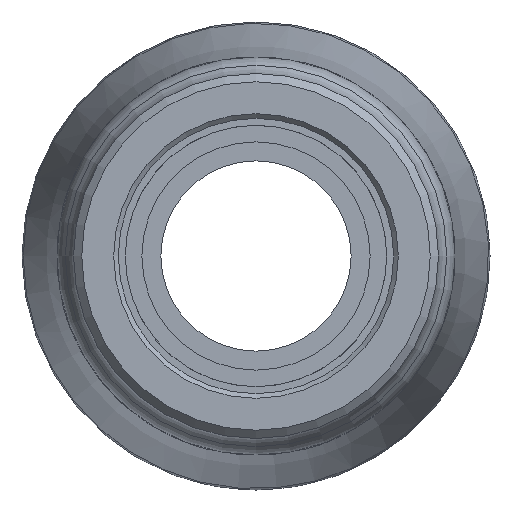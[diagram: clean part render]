
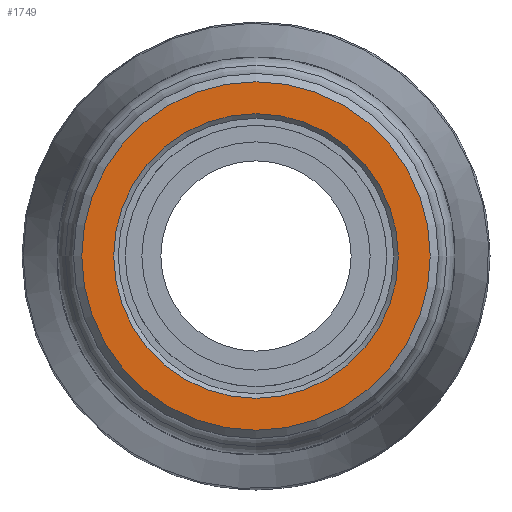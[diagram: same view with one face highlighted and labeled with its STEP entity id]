
A CAD part, left-side view. The second image highlights one B-rep face of the part: STEP entity #1749.
In plain terms, the highlighted planar face has unit normal (-1, 0, 0).
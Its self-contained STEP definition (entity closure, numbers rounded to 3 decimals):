
#193=PLANE('',#1913);
#254=FACE_BOUND('',#413,.T.);
#296=FACE_OUTER_BOUND('',#412,.T.);
#412=EDGE_LOOP('',(#1241));
#413=EDGE_LOOP('',(#1242));
#555=CIRCLE('',#1912,12.469);
#556=CIRCLE('',#1914,15.266);
#743=VERTEX_POINT('',#3036);
#744=VERTEX_POINT('',#3039);
#927=EDGE_CURVE('',#743,#743,#555,.T.);
#928=EDGE_CURVE('',#744,#744,#556,.T.);
#1241=ORIENTED_EDGE('',*,*,#928,.F.);
#1242=ORIENTED_EDGE('',*,*,#927,.F.);
#1749=ADVANCED_FACE('',(#296,#254),#193,.T.);
#1912=AXIS2_PLACEMENT_3D('',#3037,#2217,#2218);
#1913=AXIS2_PLACEMENT_3D('',#3038,#2219,#2220);
#1914=AXIS2_PLACEMENT_3D('',#3040,#2221,#2222);
#2217=DIRECTION('center_axis',(-1.,0.,0.));
#2218=DIRECTION('ref_axis',(0.,-1.,0.));
#2219=DIRECTION('center_axis',(-1.,0.,0.));
#2220=DIRECTION('ref_axis',(0.,0.,1.));
#2221=DIRECTION('center_axis',(1.,0.,0.));
#2222=DIRECTION('ref_axis',(0.,-1.,0.));
#3036=CARTESIAN_POINT('',(0.,12.469,0.));
#3037=CARTESIAN_POINT('Origin',(0.,0.,0.));
#3038=CARTESIAN_POINT('Origin',(0.,15.99,0.));
#3039=CARTESIAN_POINT('',(0.,15.266,0.));
#3040=CARTESIAN_POINT('Origin',(0.,0.,0.));
